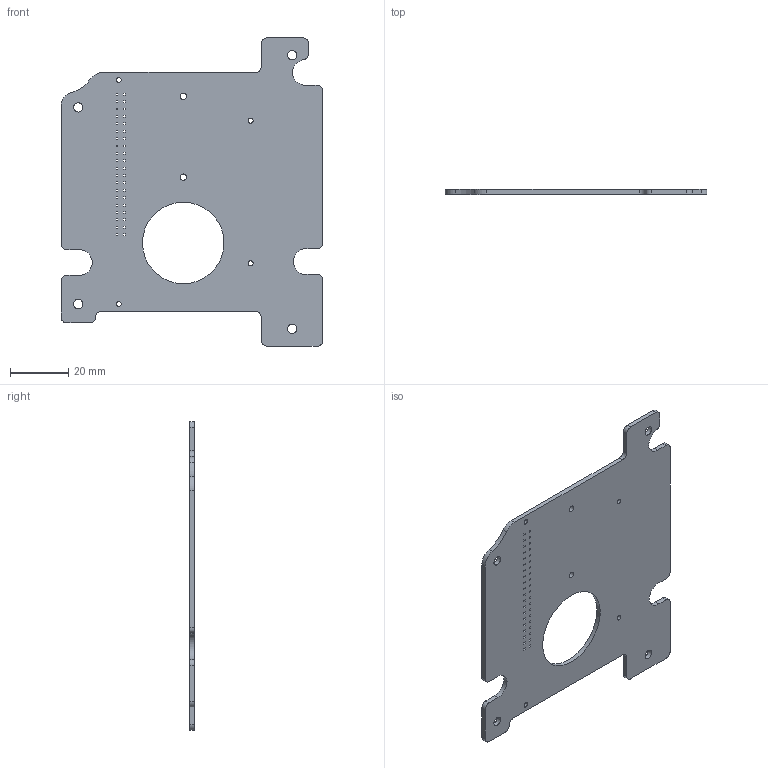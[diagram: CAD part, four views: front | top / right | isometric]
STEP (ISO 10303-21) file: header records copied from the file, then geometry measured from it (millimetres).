
FILE_DESCRIPTION(/* description */ ('STEP AP242 Edition 2','CAx-IF Rec.Pracs.---Representation and Presentation of Product Manufacturing Information (PMI)---4.0---2014-10-13','CAx-IF Rec.Pracs.---3D Tessellated Geometry---0.4---2014-09-14','2;1','CAx-IF Rec.Pracs.---User Defined Attributes---1.5---2016-08-15'),/* implementation_level */ '2;1');
FILE_NAME(/* name */ 'Assy_ForMFG - VIM4_DB',/* time_stamp */ '2026-05-15T19:56:57Z',/* author */ (''),/* organization */ (''),/* preprocessor_version */ 'ST-DEVELOPER v20',/* originating_system */ 'ONSHAPE BY PTC INC, 1.215',/* authorisation */ ' ');
FILE_SCHEMA (('AP242_MANAGED_MODEL_BASED_3D_ENGINEERING_MIM_LF { 1 0 10303 442 3 1 4 }'));
Length unit declared in the file: metre
Products named in the file (1): VIM4_DB
Bounding box: 90 x 1.6 x 106 mm (x, y, z)
Volume: 11034.7 mm3; surface area: 14893.8 mm2
Topology: 1 solids, 1 shells, 211 faces, 631 edges, 422 vertices
Faces by surface type: plane 179, cylinder 32
Full cylindrical faces by diameter (mm): 1.7 x4, 2.2 x2, 3.2 x4, 28 x1
Entity records: 7156 total; most frequent: CARTESIAN_POINT 1246, ORIENTED_EDGE 1232, DIRECTION 1104, EDGE_CURVE 616, LINE 552, VECTOR 552, VERTEX_POINT 418, EDGE_LOOP 324
